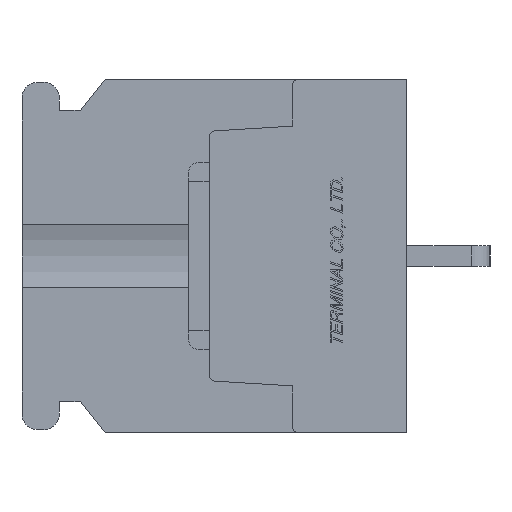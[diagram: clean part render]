
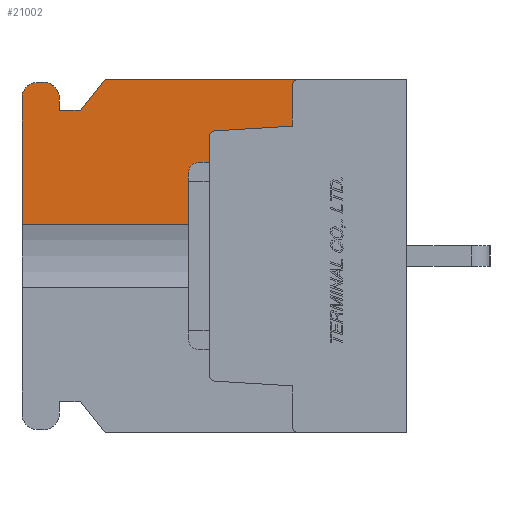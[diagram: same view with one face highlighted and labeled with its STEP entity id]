
A CAD part, left-side view. The second image highlights one B-rep face of the part: STEP entity #21002.
In plain terms, the highlighted planar face has unit normal (-1, 0, 0).
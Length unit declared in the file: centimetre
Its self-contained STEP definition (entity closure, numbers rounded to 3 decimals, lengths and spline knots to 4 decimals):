
#1578=VECTOR('',#23989,1.);
#1580=VECTOR('',#23992,1.);
#1582=VECTOR('',#23999,1.);
#1583=VECTOR('',#24000,1.);
#1584=VECTOR('',#24001,1.);
#1585=VECTOR('',#24002,1.);
#1586=VECTOR('',#24003,1.);
#1587=VECTOR('',#24006,1.);
#1588=VECTOR('',#24009,1.);
#1589=VECTOR('',#24010,1.);
#3865=LINE('',#30937,#1578);
#3867=LINE('',#30941,#1580);
#3869=LINE('',#30947,#1582);
#3870=LINE('',#30949,#1583);
#3871=LINE('',#30951,#1584);
#3872=LINE('',#30953,#1585);
#3873=LINE('',#30955,#1586);
#3874=LINE('',#30959,#1587);
#3875=LINE('',#30963,#1588);
#3876=LINE('',#30965,#1589);
#6224=VERTEX_POINT('',#30930);
#6225=VERTEX_POINT('',#30932);
#6226=VERTEX_POINT('',#30936);
#6227=VERTEX_POINT('',#30940);
#6228=VERTEX_POINT('',#30944);
#6229=VERTEX_POINT('',#30948);
#6230=VERTEX_POINT('',#30950);
#6231=VERTEX_POINT('',#30952);
#6232=VERTEX_POINT('',#30954);
#6233=VERTEX_POINT('',#30956);
#6234=VERTEX_POINT('',#30958);
#6235=VERTEX_POINT('',#30960);
#6236=VERTEX_POINT('',#30962);
#6237=VERTEX_POINT('',#30964);
#7635=CIRCLE('',#35736,0.03);
#7636=CIRCLE('',#35740,0.03);
#7637=CIRCLE('',#35742,0.075);
#7638=CIRCLE('',#35743,0.075);
#9344=EDGE_CURVE('',#6225,#6224,#7635,.T.);
#9347=EDGE_CURVE('',#6224,#6226,#3865,.T.);
#9349=EDGE_CURVE('',#6226,#6227,#3867,.T.);
#9351=EDGE_CURVE('',#6227,#6228,#7636,.T.);
#9352=EDGE_CURVE('',#6229,#6225,#3869,.T.);
#9353=EDGE_CURVE('',#6230,#6228,#3870,.T.);
#9354=EDGE_CURVE('',#6231,#6230,#3871,.T.);
#9355=EDGE_CURVE('',#6232,#6231,#3872,.T.);
#9356=EDGE_CURVE('',#6233,#6232,#3873,.T.);
#9357=EDGE_CURVE('',#6234,#6233,#7637,.T.);
#9358=EDGE_CURVE('',#6235,#6234,#3874,.T.);
#9359=EDGE_CURVE('',#6236,#6235,#7638,.T.);
#9360=EDGE_CURVE('',#6237,#6236,#3875,.T.);
#9361=EDGE_CURVE('',#6237,#6229,#3876,.T.);
#13743=ORIENTED_EDGE('',*,*,#9352,.T.);
#13744=ORIENTED_EDGE('',*,*,#9344,.T.);
#13745=ORIENTED_EDGE('',*,*,#9347,.T.);
#13746=ORIENTED_EDGE('',*,*,#9349,.T.);
#13747=ORIENTED_EDGE('',*,*,#9351,.T.);
#13748=ORIENTED_EDGE('',*,*,#9353,.F.);
#13749=ORIENTED_EDGE('',*,*,#9354,.F.);
#13750=ORIENTED_EDGE('',*,*,#9355,.F.);
#13751=ORIENTED_EDGE('',*,*,#9356,.F.);
#13752=ORIENTED_EDGE('',*,*,#9357,.F.);
#13753=ORIENTED_EDGE('',*,*,#9358,.F.);
#13754=ORIENTED_EDGE('',*,*,#9359,.F.);
#13755=ORIENTED_EDGE('',*,*,#9360,.F.);
#13756=ORIENTED_EDGE('',*,*,#9361,.T.);
#18384=EDGE_LOOP('',(#13743,#13744,#13745,#13746,#13747,#13748,#13749,#13750,
#13751,#13752,#13753,#13754,#13755,#13756));
#19720=FACE_BOUND('',#18384,.T.);
#21002=ADVANCED_FACE('',(#19720),#22059,.F.);
#22059=PLANE('',#35741);
#23984=DIRECTION('',(1.,0.,0.));
#23985=DIRECTION('',(0.,0.,0.03));
#23989=DIRECTION('',(0.,-0.998,0.061));
#23992=DIRECTION('',(0.,0.,1.));
#23996=DIRECTION('',(1.,0.,0.));
#23997=DIRECTION('',(0.,0.,0.03));
#23998=DIRECTION('',(1.,0.,0.));
#23999=DIRECTION('',(0.,0.,1.));
#24000=DIRECTION('',(0.,-1.,0.));
#24001=DIRECTION('',(0.,-0.625,0.781));
#24002=DIRECTION('',(0.,-1.,0.));
#24003=DIRECTION('',(0.,0.,-1.));
#24004=DIRECTION('',(1.,0.,0.));
#24005=DIRECTION('',(0.,0.,-0.075));
#24006=DIRECTION('',(0.,-1.,0.));
#24007=DIRECTION('',(1.,0.,0.));
#24008=DIRECTION('',(0.,0.,-0.075));
#24009=DIRECTION('',(0.,0.,1.));
#24010=DIRECTION('',(0.,-1.,0.));
#30930=CARTESIAN_POINT('',(-1.1,0.9218,0.6017));
#30931=CARTESIAN_POINT('',(-1.1,0.92,0.5718));
#30932=CARTESIAN_POINT('',(-1.1,0.95,0.5718));
#30936=CARTESIAN_POINT('',(-1.1,0.55,0.6245));
#30937=CARTESIAN_POINT('',(-1.1,0.859,0.6056));
#30940=CARTESIAN_POINT('',(-1.1,0.55,0.82));
#30941=CARTESIAN_POINT('',(-1.1,0.55,0.3611));
#30944=CARTESIAN_POINT('',(-1.1,0.52,0.85));
#30945=CARTESIAN_POINT('',(-1.1,0.52,0.82));
#30946=CARTESIAN_POINT('',(-1.1,0.9454,0.));
#30947=CARTESIAN_POINT('',(-1.1,0.95,0.));
#30948=CARTESIAN_POINT('',(-1.1,0.95,0.1521));
#30949=CARTESIAN_POINT('',(-1.1,1.45,0.85));
#30950=CARTESIAN_POINT('',(-1.1,1.45,0.85));
#30951=CARTESIAN_POINT('',(-1.1,1.57,0.7));
#30952=CARTESIAN_POINT('',(-1.1,1.57,0.7));
#30953=CARTESIAN_POINT('',(-1.1,1.67,0.7));
#30954=CARTESIAN_POINT('',(-1.1,1.67,0.7));
#30955=CARTESIAN_POINT('',(-1.1,1.67,0.76));
#30956=CARTESIAN_POINT('',(-1.1,1.67,0.76));
#30957=CARTESIAN_POINT('',(-1.1,1.745,0.76));
#30958=CARTESIAN_POINT('',(-1.1,1.745,0.835));
#30959=CARTESIAN_POINT('',(-1.1,1.775,0.835));
#30960=CARTESIAN_POINT('',(-1.1,1.775,0.835));
#30961=CARTESIAN_POINT('',(-1.1,1.775,0.76));
#30962=CARTESIAN_POINT('',(-1.1,1.85,0.76));
#30963=CARTESIAN_POINT('',(-1.1,1.85,-0.76));
#30964=CARTESIAN_POINT('',(-1.1,1.85,0.1521));
#30965=CARTESIAN_POINT('',(-1.1,1.4,0.1521));
#35736=AXIS2_PLACEMENT_3D('',#30931,#23984,#23985);
#35740=AXIS2_PLACEMENT_3D('',#30945,#23996,#23997);
#35741=AXIS2_PLACEMENT_3D('',#30946,#23998,$);
#35742=AXIS2_PLACEMENT_3D('',#30957,#24004,#24005);
#35743=AXIS2_PLACEMENT_3D('',#30961,#24007,#24008);
